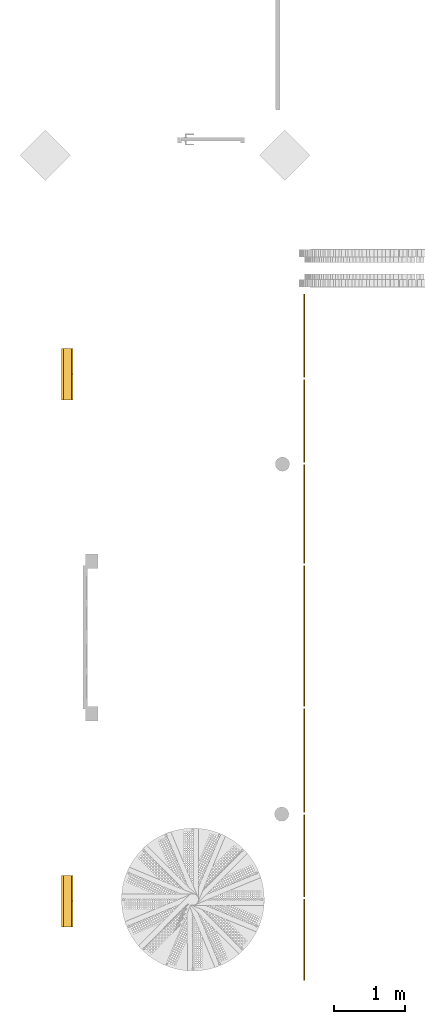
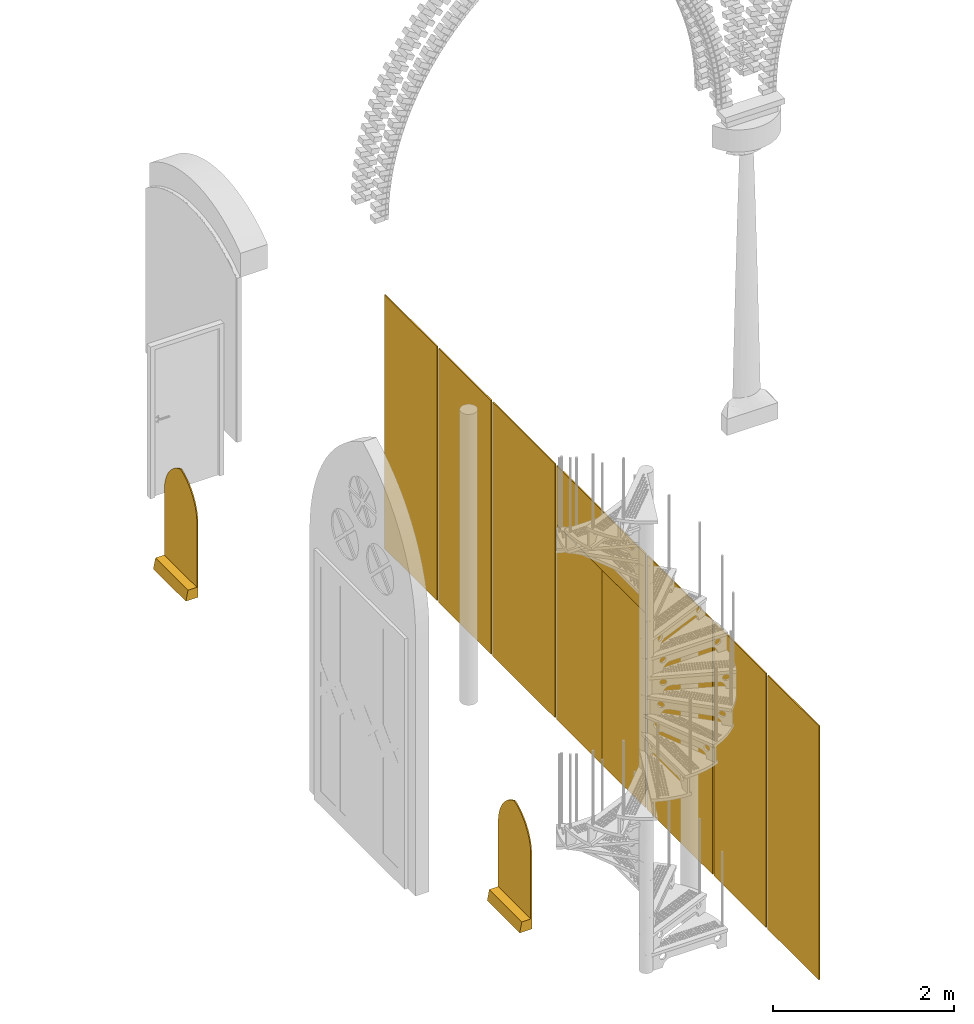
# One storey, part 2 of 6: 9 curtain walls, 2 windows, 1 element without a shape of its own.
"""IFC2X3 building model written with IfcOpenShell, lengths in metres."""

from ifc_helpers import new_model, entity, si_unit, converted_unit, derived_unit, direction, frame, frame_2d, origin, place, context, subcontext, project, spatial, polyline, circle_curve, parameter, trimmed, segment, composite_curve, rectangle, outline, extrude, source, transform, mapped, material, material_list, layer, layer_set, layer_usage, type_object, type_shapes, element, aggregate, save


model = new_model("IFC2X3")

# Units and contexts
model_context = context("Model", 3, precision=1e-05, world=origin(), true_north=direction((6.12303176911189e-17, 1.0)))
plan_context = context("Plan", 3, precision=1e-05, world=origin(), true_north=direction((6.12303176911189e-17, 1.0)))
body_context = subcontext(model_context, "Body", "Model", "MODEL_VIEW")
ifc_project = project(units=[si_unit("LENGTHUNIT", "METRE"), si_unit("AREAUNIT", "SQUARE_METRE"), si_unit("VOLUMEUNIT", "CUBIC_METRE"), converted_unit("PLANEANGLEUNIT", "DEGREE", entity("IfcRatioMeasure", 0.0174532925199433), si_unit("PLANEANGLEUNIT", "RADIAN"), dimensions=[0, 0, 0, 0, 0, 0, 0]), si_unit("MASSUNIT", "GRAM", prefix="KILO"), derived_unit("MASSDENSITYUNIT", [(si_unit("MASSUNIT", "GRAM", prefix="KILO"), 1), (si_unit("LENGTHUNIT", "METRE"), -3)]), derived_unit("MOMENTOFINERTIAUNIT", [(si_unit("LENGTHUNIT", "METRE"), 4)]), si_unit("TIMEUNIT", "SECOND"), si_unit("FREQUENCYUNIT", "HERTZ"), si_unit("THERMODYNAMICTEMPERATUREUNIT", "DEGREE_CELSIUS"), derived_unit("THERMALTRANSMITTANCEUNIT", [(si_unit("MASSUNIT", "GRAM", prefix="KILO"), 1), (si_unit("THERMODYNAMICTEMPERATUREUNIT", "KELVIN"), -1), (si_unit("TIMEUNIT", "SECOND"), -3)]), derived_unit("VOLUMETRICFLOWRATEUNIT", [(si_unit("LENGTHUNIT", "METRE"), 3), (si_unit("TIMEUNIT", "SECOND"), -1)]), derived_unit("MASSFLOWRATEUNIT", [(si_unit("MASSUNIT", "GRAM", prefix="KILO"), 1), (si_unit("TIMEUNIT", "SECOND"), -1)]), derived_unit("ROTATIONALFREQUENCYUNIT", [(si_unit("TIMEUNIT", "SECOND"), -1)]), si_unit("ELECTRICCURRENTUNIT", "AMPERE"), si_unit("ELECTRICVOLTAGEUNIT", "VOLT"), si_unit("POWERUNIT", "WATT"), si_unit("FORCEUNIT", "NEWTON", prefix="KILO"), si_unit("ILLUMINANCEUNIT", "LUX"), si_unit("LUMINOUSFLUXUNIT", "LUMEN"), si_unit("LUMINOUSINTENSITYUNIT", "CANDELA"), derived_unit("USERDEFINED", [(si_unit("MASSUNIT", "GRAM", prefix="KILO"), -1), (si_unit("LENGTHUNIT", "METRE"), -2), (si_unit("TIMEUNIT", "SECOND"), 3), (si_unit("LUMINOUSFLUXUNIT", "LUMEN"), 1)]), derived_unit("SOUNDPOWERUNIT", [(si_unit("MASSUNIT", "GRAM", prefix="KILO"), 1), (si_unit("LENGTHUNIT", "METRE"), 2), (si_unit("TIMEUNIT", "SECOND"), -3)]), derived_unit("SOUNDPRESSUREUNIT", [(si_unit("MASSUNIT", "GRAM", prefix="KILO"), 1), (si_unit("LENGTHUNIT", "METRE"), -1), (si_unit("TIMEUNIT", "SECOND"), -2)]), derived_unit("LINEARVELOCITYUNIT", [(si_unit("LENGTHUNIT", "METRE"), 1), (si_unit("TIMEUNIT", "SECOND"), -1)]), si_unit("PRESSUREUNIT", "PASCAL"), derived_unit("USERDEFINED", [(si_unit("LENGTHUNIT", "METRE"), -2), (si_unit("MASSUNIT", "GRAM", prefix="KILO"), 1), (si_unit("TIMEUNIT", "SECOND"), -2)]), derived_unit("LINEARFORCEUNIT", [(si_unit("MASSUNIT", "GRAM", prefix="KILO"), 1), (si_unit("LENGTHUNIT", "METRE"), 1), (si_unit("TIMEUNIT", "SECOND"), -2), (si_unit("LENGTHUNIT", "METRE"), -1)]), derived_unit("PLANARFORCEUNIT", [(si_unit("MASSUNIT", "GRAM", prefix="KILO"), 1), (si_unit("LENGTHUNIT", "METRE"), 1), (si_unit("TIMEUNIT", "SECOND"), -2), (si_unit("LENGTHUNIT", "METRE"), -2)])], contexts=[model_context, plan_context])

# Site, building, storey
site_placement = place(None, frame((-11.0823275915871, 23.8300534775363, 0.0)))
site = spatial("IfcSite", under=ifc_project, at=site_placement, Name="Default", CompositionType="ELEMENT")
building_placement = place(site_placement, origin())
building = spatial("IfcBuilding", under=site, at=building_placement, Name="Englische Kirche", CompositionType="ELEMENT")
storey_placement = place(building_placement, origin())
storey = spatial("IfcBuildingStorey", under=building, at=storey_placement, Name="Ebene 0 Nave FFL Phase 1 1864", CompositionType="ELEMENT", Elevation=0.0)

# Windows
ifc_material_1 = material(Name="<Unnamed>")
ifc_material_2 = material(Name="Glas")
ifc_material_list_1 = material_list([ifc_material_1, ifc_material_2])
ifc_material_list_2 = material_list([ifc_material_1, ifc_material_2])
window_style = type_object("IfcWindowStyle", Name="Arched_Window_North_Facade_2:Arched_Window_North_Facade_2", ConstructionType="NOTDEFINED", OperationType="NOTDEFINED", ParameterTakesPrecedence=False, Sizeable=False, material=ifc_material_list_2)
shared_shape = source(origin(), body_context, "Body", "SweptSolid", [
    extrude(outline(polyline([(-0.069999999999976, -0.070825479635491), (0.069999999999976, -0.070825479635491), (0.069999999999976, 0.0841745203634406), (-0.069999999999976, 0.0574764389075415), (-0.069999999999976, -0.070825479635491)])), frame((0.124095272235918, -0.0841745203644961, 0.15499999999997), z_axis=(1.0, 0.0, 0.0), x_axis=(0.0, 0.0, -1.0)), (0.0, 0.0, 1.0), 0.72),
    extrude(outline(composite_curve([segment(trimmed(circle_curve(frame_2d((-0.247000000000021, 0.17420138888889), x_axis=(1.0, 0.0)), 0.534201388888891), [parameter(199.032040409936)], [parameter(270.0)], True, "PARAMETER"), True, "CONTINUOUS"), segment(polyline([(-0.24700000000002, -0.360000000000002), (0.623000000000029, -0.360000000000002)]), True, "CONTINUOUS"), segment(polyline([(0.623000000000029, -0.360000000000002), (0.623000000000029, 0.359999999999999)]), True, "CONTINUOUS"), segment(polyline([(0.623000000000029, 0.359999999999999), (-0.247000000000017, 0.360000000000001)]), True, "CONTINUOUS"), segment(trimmed(circle_curve(frame_2d((-0.247000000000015, -0.174201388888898), x_axis=(1.0, 0.0)), 0.534201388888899), [parameter(90.0)], [parameter(160.967959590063)], True, "PARAMETER"), True, "CONTINUOUS")], self_intersect=False)), frame((0.484095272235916, -0.154999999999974, 0.847999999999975), z_axis=(0.0, 1.0, 0.0), x_axis=(0.0, 0.0, -1.0)), (0.0, 0.0, 1.0), 0.0149999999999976),
])
type_shapes(window_style, [shared_shape])
window_1_placement = place(storey_placement, frame((-0.404054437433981, 0.673385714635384, 1.28500000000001), z_axis=(0.0, 0.0, 1.0), x_axis=(0.0, 1.0, 0.0)))
element("IfcWindow", 1, at=window_1_placement, inside=storey, type_object=window_style, material=ifc_material_list_1, Name="Arched_Window_North_Facade_2:Arched_Window_North_Facade_2", ObjectType="Arched_Window_North_Facade_2:Arched_Window_North_Facade_2", OverallHeight=1.74, OverallWidth=0.965, context=body_context, shape_type="MappedRepresentation", body=[
    mapped(shared_shape, transform((0.0, 0.0, 0.0), scale=1.0)),
])
ifc_material_list_3 = material_list([ifc_material_1, ifc_material_2])
window_2_placement = place(storey_placement, frame((-0.404054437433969, 8.05238571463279, 1.28500000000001), z_axis=(0.0, 0.0, 1.0), x_axis=(0.0, 1.0, 0.0)))
element("IfcWindow", 2, at=window_2_placement, inside=storey, type_object=window_style, material=ifc_material_list_3, Name="Arched_Window_North_Facade_2:Arched_Window_North_Facade_2", ObjectType="Arched_Window_North_Facade_2:Arched_Window_North_Facade_2", OverallHeight=1.74, OverallWidth=0.965, context=body_context, shape_type="MappedRepresentation", body=[
    mapped(shared_shape, transform((0.0, 0.0, 0.0), scale=1.0)),
])

# Curtain walls
curtain_wall_type_1 = type_object("IfcCurtainWallType", Name="Fassade:LobbyScreen", PredefinedType="NOTDEFINED")
curtain_wall_1_placement = place(storey_placement, origin())
curtain_wall_1 = element("IfcCurtainWall", 3, at=curtain_wall_1_placement, inside=storey, type_object=curtain_wall_type_1, Name="Fassade:LobbyScreen", ObjectType="Fassade:LobbyScreen")
ifc_material_3 = material(Name="Glass")
ifc_layer = layer(ifc_material_3, 0.015)
ifc_layer_set = layer_set([ifc_layer], Name="Fassade:LobbyScreen")
ifc_layer_usage_1 = layer_usage(ifc_layer_set, "AXIS2", "NEGATIVE", 0.0075)
curtain_wall_type_2 = type_object("IfcCurtainWallType", Name="Basiswand:Glass15 Clear", PredefinedType="NOTDEFINED", material=ifc_layer_set)
curtain_wall_2_placement = place(storey_placement, frame((2.99094556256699, 0.054980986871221, 0.0), z_axis=(0.0, 0.0, 1.0), x_axis=(0.0, 1.0, 0.0)))
curtain_wall_2 = element("IfcCurtainWall", 4, at=curtain_wall_2_placement, type_object=curtain_wall_type_2, material=ifc_layer_usage_1, Name="Basiswand:Glass15 Clear", ObjectType="Basiswand:Glass15 Clear", context=body_context, shape_type="SweptSolid", body=[
    extrude(rectangle(XDim=1.1305, YDim=0.0149999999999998, at=frame_2d((0.565250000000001, 8.93382590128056e-17), x_axis=(-1.0, 0.0))), origin(), (0.0, 0.0, 1.0), 3.425),
])
ifc_layer_usage_2 = layer_usage(ifc_layer_set, "AXIS2", "NEGATIVE", 0.0075)
curtain_wall_3_placement = place(storey_placement, frame((2.99094556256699, 1.22048098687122, 0.0), z_axis=(0.0, 0.0, 1.0), x_axis=(0.0, 1.0, 0.0)))
curtain_wall_3 = element("IfcCurtainWall", 5, at=curtain_wall_3_placement, type_object=curtain_wall_type_2, material=ifc_layer_usage_2, Name="Basiswand:Glass15 Clear", ObjectType="Basiswand:Glass15 Clear", context=body_context, shape_type="SweptSolid", body=[
    extrude(rectangle(XDim=1.145, YDim=0.0149999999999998, at=frame_2d((0.5725, 1.00613961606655e-16), x_axis=(-1.0, 0.0))), origin(), (0.0, 0.0, 1.0), 3.425),
])
ifc_layer_usage_3 = layer_usage(ifc_layer_set, "AXIS2", "NEGATIVE", 0.0075)
curtain_wall_4_placement = place(storey_placement, frame((2.99094556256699, 2.40048098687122, 0.0), z_axis=(0.0, 0.0, 1.0), x_axis=(0.0, 1.0, 0.0)))
curtain_wall_4 = element("IfcCurtainWall", 6, at=curtain_wall_4_placement, type_object=curtain_wall_type_2, material=ifc_layer_usage_3, Name="Basiswand:Glass15 Clear", ObjectType="Basiswand:Glass15 Clear", context=body_context, shape_type="SweptSolid", body=[
    extrude(rectangle(XDim=1.45, YDim=0.0149999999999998, at=frame_2d((0.725000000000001, 7.32920668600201e-17), x_axis=(-1.0, 0.0))), origin(), (0.0, 0.0, 1.0), 3.425),
])
ifc_layer_usage_4 = layer_usage(ifc_layer_set, "AXIS2", "NEGATIVE", 0.0075)
curtain_wall_5_placement = place(storey_placement, frame((2.990945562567, 3.88548098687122, 0.0), z_axis=(0.0, 0.0, 1.0), x_axis=(0.0, 1.0, 0.0)))
curtain_wall_5 = element("IfcCurtainWall", 7, at=curtain_wall_5_placement, type_object=curtain_wall_type_2, material=ifc_layer_usage_4, Name="Basiswand:Glass15 Clear", ObjectType="Basiswand:Glass15 Clear", context=body_context, shape_type="SweptSolid", body=[
    extrude(rectangle(XDim=0.964500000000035, YDim=0.0149999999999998, at=frame_2d((0.482250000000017, -4.33680868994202e-17), x_axis=(-1.0, 0.0))), origin(), (0.0, 0.0, 1.0), 2.625),
])
ifc_layer_usage_5 = layer_usage(ifc_layer_set, "AXIS2", "NEGATIVE", 0.0075)
curtain_wall_6_placement = place(storey_placement, frame((2.990945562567, 4.84998098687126, 0.0), z_axis=(0.0, 0.0, 1.0), x_axis=(0.0, 1.0, 0.0)))
curtain_wall_6 = element("IfcCurtainWall", 8, at=curtain_wall_6_placement, type_object=curtain_wall_type_2, material=ifc_layer_usage_5, Name="Basiswand:Glass15 Clear", ObjectType="Basiswand:Glass15 Clear", context=body_context, shape_type="SweptSolid", body=[
    extrude(rectangle(XDim=1.00549999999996, YDim=0.0149999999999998, at=frame_2d((0.502749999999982, -1.04083408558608e-17), x_axis=(-1.0, 0.0))), origin(), (0.0, 0.0, 1.0), 2.625),
])
ifc_layer_usage_6 = layer_usage(ifc_layer_set, "AXIS2", "NEGATIVE", 0.0075)
curtain_wall_7_placement = place(storey_placement, frame((2.990945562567, 5.89048098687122, 0.0), z_axis=(0.0, 0.0, 1.0), x_axis=(0.0, 1.0, 0.0)))
curtain_wall_7 = element("IfcCurtainWall", 9, at=curtain_wall_7_placement, type_object=curtain_wall_type_2, material=ifc_layer_usage_6, Name="Basiswand:Glass15 Clear", ObjectType="Basiswand:Glass15 Clear", context=body_context, shape_type="SweptSolid", body=[
    extrude(rectangle(XDim=1.375, YDim=0.0149999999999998, at=frame_2d((0.6875, 1.34441069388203e-17), x_axis=(-1.0, 0.0))), origin(), (0.0, 0.0, 1.0), 3.425),
])
ifc_layer_usage_7 = layer_usage(ifc_layer_set, "AXIS2", "NEGATIVE", 0.0075)
curtain_wall_8_placement = place(storey_placement, frame((2.990945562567, 7.30048098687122, 0.0), z_axis=(0.0, 0.0, 1.0), x_axis=(0.0, 1.0, 0.0)))
curtain_wall_8 = element("IfcCurtainWall", 10, at=curtain_wall_8_placement, type_object=curtain_wall_type_2, material=ifc_layer_usage_7, Name="Basiswand:Glass15 Clear", ObjectType="Basiswand:Glass15 Clear", context=body_context, shape_type="SweptSolid", body=[
    extrude(rectangle(XDim=1.16, YDim=0.0149999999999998, at=frame_2d((0.58, 1.12757025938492e-16), x_axis=(-1.0, 0.0))), origin(), (0.0, 0.0, 1.0), 3.425),
])
ifc_layer_usage_8 = layer_usage(ifc_layer_set, "AXIS2", "NEGATIVE", 0.0075)
curtain_wall_9_placement = place(storey_placement, frame((2.990945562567, 8.49548098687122, 0.0), z_axis=(0.0, 0.0, 1.0), x_axis=(0.0, 1.0, 0.0)))
curtain_wall_9 = element("IfcCurtainWall", 11, at=curtain_wall_9_placement, type_object=curtain_wall_type_2, material=ifc_layer_usage_8, Name="Basiswand:Glass15 Clear", ObjectType="Basiswand:Glass15 Clear", context=body_context, shape_type="SweptSolid", body=[
    extrude(rectangle(XDim=1.1595, YDim=0.0149999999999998, at=frame_2d((0.57975, 1.12323345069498e-16), x_axis=(-1.0, 0.0))), origin(), (0.0, 0.0, 1.0), 3.425),
])
ifc_layer_usage_9 = layer_usage(ifc_layer_set, "AXIS2", "NEGATIVE", 0.0075)
curtain_wall_10_placement = place(storey_placement, frame((2.990945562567, 3.88548098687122, 2.625), z_axis=(0.0, 0.0, 1.0), x_axis=(0.0, 1.0, 0.0)))
curtain_wall_10 = element("IfcCurtainWall", 12, at=curtain_wall_10_placement, type_object=curtain_wall_type_2, material=ifc_layer_usage_9, Name="Basiswand:Glass15 Clear", ObjectType="Basiswand:Glass15 Clear", context=body_context, shape_type="SweptSolid", body=[
    extrude(rectangle(XDim=1.97, YDim=0.0149999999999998, at=frame_2d((0.984999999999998, -5.3776427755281e-17), x_axis=(-1.0, 0.0))), origin(), (0.0, 0.0, 1.0), 0.8),
])
aggregate(curtain_wall_1, [curtain_wall_2, curtain_wall_3, curtain_wall_4, curtain_wall_5, curtain_wall_6, curtain_wall_7, curtain_wall_8, curtain_wall_9, curtain_wall_10])

save(model, "model.ifc")
